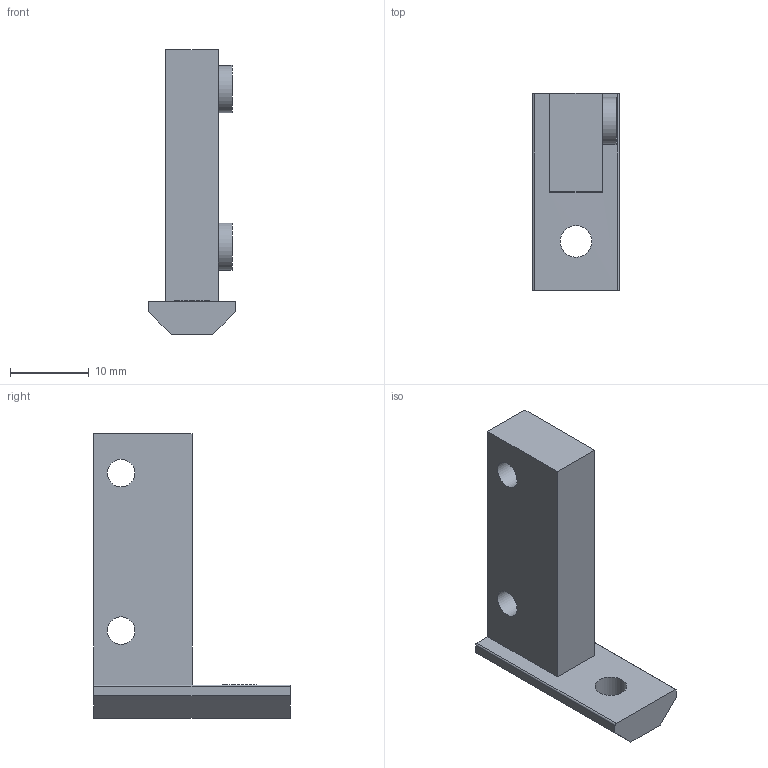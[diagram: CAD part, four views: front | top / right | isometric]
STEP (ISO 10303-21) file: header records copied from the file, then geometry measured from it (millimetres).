
FILE_DESCRIPTION(/* description */ ('STEP AP242 Edition 2','CAx-IF Rec.Pracs.---Representation and Presentation of Product Manufacturing Information (PMI)---4.0---2014-10-13','CAx-IF Rec.Pracs.---3D Tessellated Geometry---0.4---2014-09-14','2;1','CAx-IF Rec.Pracs.---User Defined Attributes---1.5---2016-08-15'),/* implementation_level */ '2;1');
FILE_NAME(/* name */ 'Front Y-Axis Limit',/* time_stamp */ '2025-11-29T19:51:01Z',/* author */ (''),/* organization */ (''),/* preprocessor_version */ 'ST-DEVELOPER v20',/* originating_system */ 'ONSHAPE BY PTC INC, 1.207',/* authorisation */ ' ');
FILE_SCHEMA (('AP242_MANAGED_MODEL_BASED_3D_ENGINEERING_MIM_LF { 1 0 10303 442 3 1 4 }'));
Length unit declared in the file: metre
Products named in the file (1): Limit Switch Mount
Bounding box: 11 x 25 x 36.13 mm (x, y, z)
Volume: 3503.1 mm3; surface area: 2213.6 mm2
Topology: 1 solids, 1 shells, 21 faces, 56 edges, 39 vertices
Faces by surface type: plane 14, cylinder 7
Full cylindrical faces by diameter (mm): 3.5 x2, 4 x1, 6 x2
Entity records: 628 total; most frequent: DIRECTION 104, CARTESIAN_POINT 102, ORIENTED_EDGE 92, EDGE_CURVE 46, AXIS2_PLACEMENT_3D 36, VERTEX_POINT 34, EDGE_LOOP 34, FACE_BOUND 34
